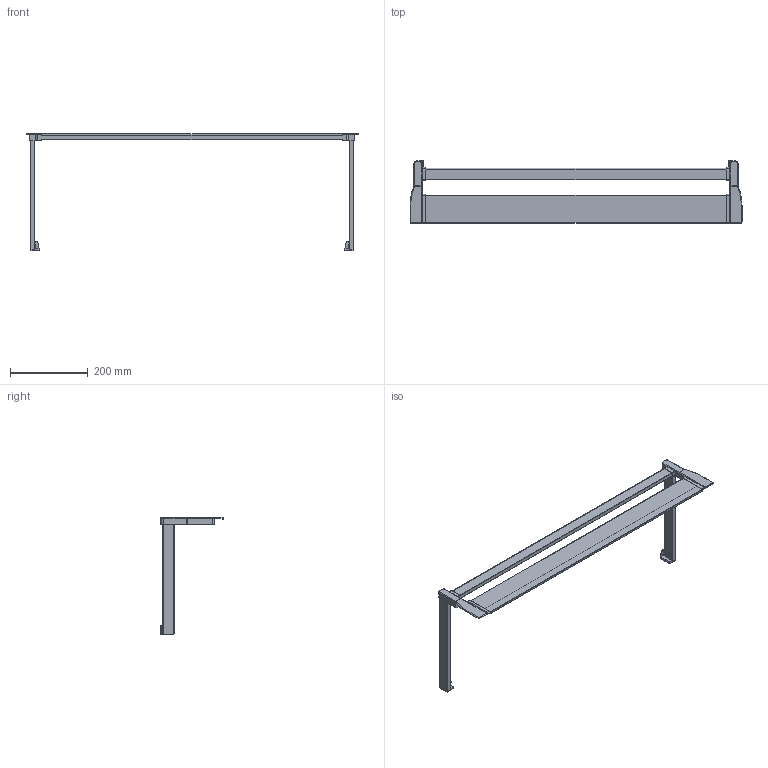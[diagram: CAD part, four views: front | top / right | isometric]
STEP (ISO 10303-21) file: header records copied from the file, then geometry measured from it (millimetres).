
FILE_DESCRIPTION (( 'STEP AP214' ), '1' );
FILE_NAME ('1_P620_NL 300_KAB 900_19er KS_.step', '2009-09-16T06:29:07', ( 'Waldinger Reinhard' ), ( 'Grass GmbH' ), 'SwSTEP 2.0', 'SolidWorks 2009', '' );
FILE_SCHEMA (( 'AUTOMOTIVE_DESIGN' ));
Length unit declared in the file: millimetre
Products named in the file (1): 1_P620_NL 300_KAB 900_19er KS_
Bounding box: 853.6 x 160.5 x 302.8 mm (x, y, z)
Volume: 1199352.7 mm3; surface area: 279387.4 mm2
Topology: 1 solids, 1 shells, 218 faces, 576 edges, 364 vertices
Faces by surface type: plane 97, cylinder 89, torus 28, sphere 2, bspline 2
Entity records: 6974 total; most frequent: CARTESIAN_POINT 1341, DIRECTION 1192, ORIENTED_EDGE 1148, EDGE_CURVE 574, AXIS2_PLACEMENT_3D 431, VERTEX_POINT 364, VECTOR 330, LINE 330
